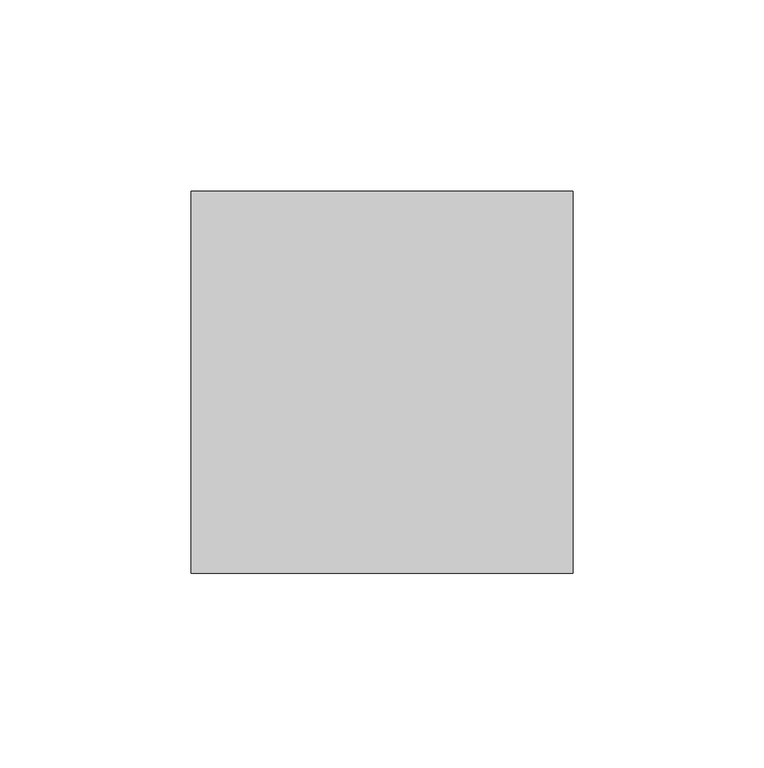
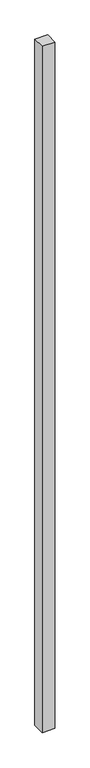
"""IFC4 building model written with IfcOpenShell, lengths in millimetres: proxy geometry, Брус : 100х100."""

import ifcopenshell
import ifcopenshell.guid

model = None  # the IFC model being written
_history = None  # IfcOwnerHistory: only IFC2X3 demands one
_inside = {}  # id of a spatial element -> (the spatial element, [elements in it])
_under = {}  # id of a project, library or spatial element -> (it, [spatial elements below it])
_declared = {}  # id of a project -> (the project, [libraries it declares])
_typed = {}  # id of a type object -> (the type object, [elements of that type])
_made_of = {}  # id of a material, layer set ... -> (it, [elements and type objects made of it])


def new_model(schema):
    """Start an empty IFC model of exactly this schema.

    Asked for "IFC4X3", IfcOpenShell would pick the latest addendum, in which some entities
    have other attributes; the version numbers below select the first issue.
    IFC2X3 requires an IfcOwnerHistory on every rooted entity: one is made here for all.
    """
    global model, _history
    if schema == "IFC4X3":
        model = ifcopenshell.file(schema_version=(4, 3, 0, 0))
    else:
        model = ifcopenshell.file(schema=schema)
    _inside.clear()
    _under.clear()
    _declared.clear()
    _typed.clear()
    _made_of.clear()
    _history = None
    if model.schema == "IFC2X3":
        org = make("IfcOrganization", Name="unknown")
        user = make(
            "IfcPersonAndOrganization",
            ThePerson=make("IfcPerson", FamilyName="unknown"),
            TheOrganization=org,
        )
        app = make(
            "IfcApplication",
            ApplicationDeveloper=org,
            Version="unknown",
            ApplicationFullName="unknown",
            ApplicationIdentifier="unknown",
        )
        _history = make(
            "IfcOwnerHistory",
            OwningUser=user,
            OwningApplication=app,
            ChangeAction="ADDED",
            CreationDate=0,
        )
    return model


def make(cls, **values):
    """One entity of the class cls with the attributes given. An attribute that is None is left unset."""
    return model.create_entity(
        cls, **{name: value for name, value in values.items() if value is not None}
    )


def rooted(cls, **values):
    """An entity with a GlobalId (a new one), such as an element, a storey or a relation."""
    return make(cls, GlobalId=ifcopenshell.guid.new(), OwnerHistory=_history, **values)


def si_unit(unit_type, name, prefix=None):
    """IfcSIUnit, for example si_unit("LENGTHUNIT", "METRE", prefix="MILLI")."""
    return make("IfcSIUnit", UnitType=unit_type, Prefix=prefix, Name=name)


def assignment(units):
    """IfcUnitAssignment: the units of a project."""
    return None if units is None else make("IfcUnitAssignment", Units=units)


def point(xyz):
    """IfcCartesianPoint."""
    return None if xyz is None else make("IfcCartesianPoint", Coordinates=xyz)


def direction(xyz):
    """IfcDirection."""
    return None if xyz is None else make("IfcDirection", DirectionRatios=xyz)


def frame(location, z_axis=None, x_axis=None):
    """IfcAxis2Placement3D, a coordinate frame: its origin and axes. An axis left out is left unset."""
    return make(
        "IfcAxis2Placement3D",
        Location=point(location),
        Axis=direction(z_axis),
        RefDirection=direction(x_axis),
    )


def origin():
    """The frame at (0, 0, 0) with its axes left unset."""
    return frame((0.0, 0.0, 0.0))


def origin_with_axes():
    """The frame at (0, 0, 0) with the z axis (0, 0, 1) and the x axis (1, 0, 0) written out."""
    return frame((0.0, 0.0, 0.0), z_axis=(0.0, 0.0, 1.0), x_axis=(1.0, 0.0, 0.0))


def place(relative_to, where):
    """IfcLocalPlacement: puts the frame where relative to a parent placement (None: the world)."""
    return make(
        "IfcLocalPlacement", PlacementRelTo=relative_to, RelativePlacement=where
    )


def context(
    kind, dimensions, precision=None, world=None, true_north=None, identifier=None
):
    """IfcGeometricRepresentationContext, for example the 3D "Model" context."""
    return make(
        "IfcGeometricRepresentationContext",
        ContextIdentifier=identifier,
        ContextType=kind,
        CoordinateSpaceDimension=dimensions,
        Precision=precision,
        WorldCoordinateSystem=world,
        TrueNorth=true_north,
    )


def project(units=None, contexts=None):
    """IfcProject with its units and contexts."""
    return rooted(
        "IfcProject",
        Name="project",
        RepresentationContexts=contexts,
        UnitsInContext=assignment(units),
    )


def spatial(cls, under=None, at=None, **own):
    """A site, building, storey or space (cls), placed at a placement, below another one or the project."""
    s = rooted(cls, ObjectPlacement=at, **own)
    if under is not None:
        _under.setdefault(under.id(), (under, []))[1].append(s)
    return s


def polyline(points):
    """IfcPolyline through the points."""
    return make("IfcPolyline", Points=[point(p) for p in points])


def outline(outer, holes=None, kind="AREA"):
    """IfcArbitraryClosedProfileDef: a profile drawn as a closed curve; with holes, ...WithVoids."""
    if holes is None:
        return make("IfcArbitraryClosedProfileDef", ProfileType=kind, OuterCurve=outer)
    return make(
        "IfcArbitraryProfileDefWithVoids",
        ProfileType=kind,
        OuterCurve=outer,
        InnerCurves=holes,
    )


def extrude(swept, where, along, depth):
    """IfcExtrudedAreaSolid: the profile swept, set in the frame where, extruded along a direction by depth."""
    return make(
        "IfcExtrudedAreaSolid",
        SweptArea=swept,
        Position=where,
        ExtrudedDirection=direction(along),
        Depth=depth,
    )


def shape(context_of_items, identifier, shape_type, items):
    """IfcShapeRepresentation: the items that make up one representation, for example the "Body"."""
    return make(
        "IfcShapeRepresentation",
        ContextOfItems=context_of_items,
        RepresentationIdentifier=identifier,
        RepresentationType=shape_type,
        Items=items,
    )


def source(mapping_origin, context_of_items, identifier, shape_type, items):
    """IfcRepresentationMap: a shape defined once, which mapped items show again and again."""
    return make(
        "IfcRepresentationMap",
        MappingOrigin=mapping_origin,
        MappedRepresentation=shape(context_of_items, identifier, shape_type, items),
    )


def transform(
    local_origin,
    x_axis=None,
    y_axis=None,
    z_axis=None,
    scale=None,
    scale2=None,
    scale3=None,
    uniform=True,
):
    """IfcCartesianTransformationOperator3D, or its non-uniform kind. x_axis, y_axis, z_axis: its Axis1, 2, 3."""
    if uniform:
        return make(
            "IfcCartesianTransformationOperator3D",
            Axis1=direction(x_axis),
            Axis2=direction(y_axis),
            LocalOrigin=point(local_origin),
            Scale=scale,
            Axis3=direction(z_axis),
        )
    return make(
        "IfcCartesianTransformationOperator3DnonUniform",
        Axis1=direction(x_axis),
        Axis2=direction(y_axis),
        LocalOrigin=point(local_origin),
        Scale=scale,
        Axis3=direction(z_axis),
        Scale2=scale2,
        Scale3=scale3,
    )


def mapped(mapping_source, mapping_target):
    """IfcMappedItem: shows the shape of a source again, moved by a transform."""
    return make(
        "IfcMappedItem", MappingSource=mapping_source, MappingTarget=mapping_target
    )


def made_of(thing, what):
    """Note that an element or type object is made of a material, layer set ...; save() writes the relation."""
    if what is not None:
        _made_of.setdefault(what.id(), (what, []))[1].append(thing)
    return thing


def element(
    cls,
    number,
    at=None,
    inside=None,
    cuts=None,
    type_object=None,
    material=None,
    context=None,
    identifier="Body",
    shape_type=None,
    held_by="IfcProductDefinitionShape",
    body=None,
    shapes=None,
    **own,
):
    """One element of the class cls, such as IfcWall. Its Tag is "e" and its number.

    at: its placement. inside: the storey or other place that contains it. cuts: it is an
    opening in that element (IfcRelVoidsElement). A single representation is given by context,
    identifier, shape_type and body (its items); several are given by shapes. held_by: the class
    of the entity that holds the representations. save() writes the other relations.
    """
    e = rooted(cls, Tag="e%d" % number, ObjectPlacement=at, **own)
    if body is not None:
        shapes = [shape(context, identifier, shape_type, body)]
    if shapes is not None:
        e.Representation = make(held_by, Representations=shapes)
    if inside is not None:
        _inside.setdefault(inside.id(), (inside, []))[1].append(e)
    if cuts is not None:
        rooted(
            "IfcRelVoidsElement", RelatingBuildingElement=cuts, RelatedOpeningElement=e
        )
    if type_object is not None:
        _typed.setdefault(type_object.id(), (type_object, []))[1].append(e)
    return made_of(e, material)


def aggregate(whole, parts):
    """IfcRelAggregates: a whole, such as a stair, and the parts it consists of."""
    return rooted("IfcRelAggregates", RelatingObject=whole, RelatedObjects=parts)


def save(model, path):
    """Write the relations noted so far, then the file.

    IfcRelAggregates (storeys below a building ...), IfcRelContainedInSpatialStructure (elements
    in a storey), IfcRelDefinesByType, IfcRelAssociatesMaterial and IfcRelDeclares: one each for
    every whole, place, type object, material and project.
    """
    for whole, parts in _under.values():
        aggregate(whole, parts)
    for where, things in _inside.values():
        rooted(
            "IfcRelContainedInSpatialStructure",
            RelatedElements=things,
            RelatingStructure=where,
        )
    for kind, things in _typed.values():
        rooted("IfcRelDefinesByType", RelatedObjects=things, RelatingType=kind)
    for what, things in _made_of.values():
        rooted("IfcRelAssociatesMaterial", RelatedObjects=things, RelatingMaterial=what)
    for by, libraries in _declared.values():
        rooted("IfcRelDeclares", RelatingContext=by, RelatedDefinitions=libraries)
    model.write(path)


def generic_models_172626d7(model_context):
    return source(origin(), model_context, "Body", "SweptSolid", [
        extrude(outline(polyline([(100.0, 0.0), (0.0, 0.0), (0.0, 100.0), (100.0, 100.0), (100.0, 0.0)])), origin_with_axes(), (0.0, 0.0, 1.0), 5760.0),
    ])


if __name__ == "__main__":
    model = new_model("IFC4")
    model_context = context("Model", 3, world=origin())
    ifc_project = project(units=[si_unit("LENGTHUNIT", "METRE", prefix="MILLI")], contexts=[model_context])
    site = spatial("IfcSite", under=ifc_project)
    building = spatial("IfcBuilding", under=site)
    placement = place(None, origin())
    generic_models_shape = generic_models_172626d7(model_context)
    element("IfcBuildingElementProxy", 1, Name="Брус : 100х100", ObjectType="Брус : 100х100", at=placement, inside=building, context=model_context, shape_type="MappedRepresentation", body=[
        mapped(generic_models_shape, transform((0.0, 0.0, 0.0), x_axis=(1.0, 0.0, 0.0), y_axis=(0.0, 1.0, 0.0), z_axis=(0.0, 0.0, 1.0))),
    ])
    save(model, "model.ifc")
